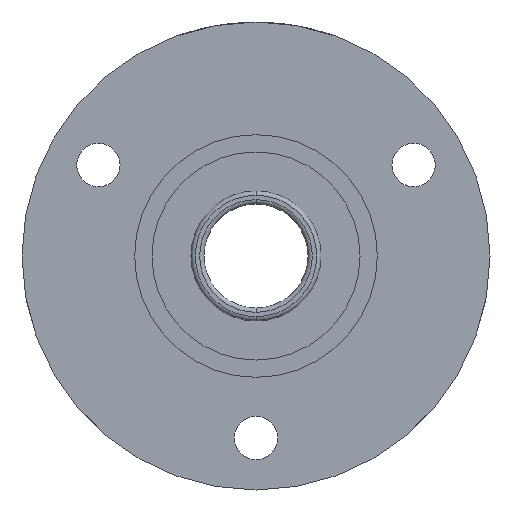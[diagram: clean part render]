
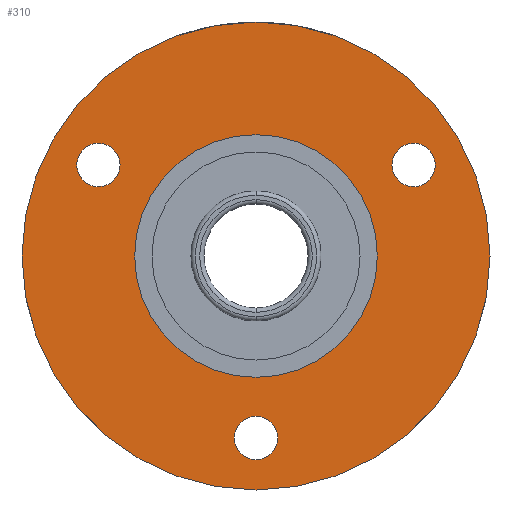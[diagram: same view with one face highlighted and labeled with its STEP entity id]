
A CAD part, front view. The second image highlights one B-rep face of the part: STEP entity #310.
In plain terms, the highlighted planar face has unit normal (0, -1, 0).
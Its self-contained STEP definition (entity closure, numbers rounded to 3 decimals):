
#242 = EDGE_CURVE ( 'NONE', #8785, #4486, #6727, .T. ) ;
#310 = ADVANCED_FACE ( 'NONE', ( #2853, #9030, #9924, #2970, #9760 ), #9812, .F. ) ;
#442 = CARTESIAN_POINT ( 'NONE',  ( 0., -1.5, 0. ) ) ;
#617 = DIRECTION ( 'NONE',  ( 0., 1., 0. ) ) ;
#733 = EDGE_CURVE ( 'NONE', #3420, #9130, #6818, .T. ) ;
#938 = DIRECTION ( 'NONE',  ( 0., 1., 0. ) ) ;
#975 = AXIS2_PLACEMENT_3D ( 'NONE', #1184, #9706, #10820 ) ;
#1105 = AXIS2_PLACEMENT_3D ( 'NONE', #442, #8089, #7302 ) ;
#1176 = DIRECTION ( 'NONE',  ( 0., 0., 1. ) ) ;
#1179 = EDGE_CURVE ( 'NONE', #9130, #3420, #2641, .T. ) ;
#1184 = CARTESIAN_POINT ( 'NONE',  ( 0., -1.5, 0. ) ) ;
#1227 = CARTESIAN_POINT ( 'NONE',  ( 0., -1.5, -21. ) ) ;
#1248 = EDGE_LOOP ( 'NONE', ( #10624, #6770 ) ) ;
#1449 = CIRCLE ( 'NONE', #2878, 7.5 ) ;
#1476 = CARTESIAN_POINT ( 'NONE',  ( 18.187, -1.5, 10.5 ) ) ;
#1521 = DIRECTION ( 'NONE',  ( 0., 0., 1. ) ) ;
#1757 = CARTESIAN_POINT ( 'NONE',  ( 0., -1.5, -27. ) ) ;
#1835 = EDGE_LOOP ( 'NONE', ( #7843, #6808 ) ) ;
#1868 = AXIS2_PLACEMENT_3D ( 'NONE', #1227, #10754, #2223 ) ;
#2223 = DIRECTION ( 'NONE',  ( 0., 0., 1. ) ) ;
#2533 = ORIENTED_EDGE ( 'NONE', *, *, #9131, .F. ) ;
#2641 = CIRCLE ( 'NONE', #4071, 2.5 ) ;
#2791 = DIRECTION ( 'NONE',  ( 0., 0., 1. ) ) ;
#2853 = FACE_BOUND ( 'NONE', #3094, .T. ) ;
#2878 = AXIS2_PLACEMENT_3D ( 'NONE', #9389, #6032, #11065 ) ;
#2970 = FACE_BOUND ( 'NONE', #1835, .T. ) ;
#2972 = VERTEX_POINT ( 'NONE', #10881 ) ;
#3094 = EDGE_LOOP ( 'NONE', ( #5353, #7670 ) ) ;
#3202 = AXIS2_PLACEMENT_3D ( 'NONE', #8887, #9489, #10502 ) ;
#3350 = CARTESIAN_POINT ( 'NONE',  ( -18.187, -1.5, 8. ) ) ;
#3420 = VERTEX_POINT ( 'NONE', #9084 ) ;
#3519 = CARTESIAN_POINT ( 'NONE',  ( -18.187, -1.5, 10.5 ) ) ;
#3669 = AXIS2_PLACEMENT_3D ( 'NONE', #3519, #6958, #2791 ) ;
#3932 = AXIS2_PLACEMENT_3D ( 'NONE', #1476, #9007, #9790 ) ;
#4071 = AXIS2_PLACEMENT_3D ( 'NONE', #8311, #617, #1521 ) ;
#4116 = EDGE_CURVE ( 'NONE', #5311, #5239, #8980, .T. ) ;
#4486 = VERTEX_POINT ( 'NONE', #6711 ) ;
#4968 = DIRECTION ( 'NONE',  ( 0., 0., 1. ) ) ;
#5064 = EDGE_CURVE ( 'NONE', #4486, #8785, #1449, .T. ) ;
#5161 = EDGE_LOOP ( 'NONE', ( #7049, #9948 ) ) ;
#5239 = VERTEX_POINT ( 'NONE', #8063 ) ;
#5311 = VERTEX_POINT ( 'NONE', #10400 ) ;
#5353 = ORIENTED_EDGE ( 'NONE', *, *, #242, .T. ) ;
#5455 = DIRECTION ( 'NONE',  ( 0., 0., 1. ) ) ;
#5567 = AXIS2_PLACEMENT_3D ( 'NONE', #6042, #938, #4968 ) ;
#5763 = ORIENTED_EDGE ( 'NONE', *, *, #5839, .F. ) ;
#5839 = EDGE_CURVE ( 'NONE', #11045, #6521, #10365, .T. ) ;
#5896 = EDGE_CURVE ( 'NONE', #2972, #7656, #7343, .T. ) ;
#6032 = DIRECTION ( 'NONE',  ( 0., 1., 0. ) ) ;
#6042 = CARTESIAN_POINT ( 'NONE',  ( 0., -1.5, -21. ) ) ;
#6191 = CARTESIAN_POINT ( 'NONE',  ( 0., -1.5, 0. ) ) ;
#6280 = CARTESIAN_POINT ( 'NONE',  ( 0., -1.5, 27. ) ) ;
#6521 = VERTEX_POINT ( 'NONE', #1757 ) ;
#6711 = CARTESIAN_POINT ( 'NONE',  ( 0., -1.5, -7.5 ) ) ;
#6727 = CIRCLE ( 'NONE', #10118, 7.5 ) ;
#6743 = EDGE_CURVE ( 'NONE', #5239, #5311, #7985, .T. ) ;
#6770 = ORIENTED_EDGE ( 'NONE', *, *, #733, .T. ) ;
#6808 = ORIENTED_EDGE ( 'NONE', *, *, #5896, .T. ) ;
#6818 = CIRCLE ( 'NONE', #3932, 2.5 ) ;
#6958 = DIRECTION ( 'NONE',  ( 0., 1., 0. ) ) ;
#7049 = ORIENTED_EDGE ( 'NONE', *, *, #6743, .T. ) ;
#7147 = DIRECTION ( 'NONE',  ( 0., 1., 0. ) ) ;
#7302 = DIRECTION ( 'NONE',  ( 0., 0., 1. ) ) ;
#7343 = CIRCLE ( 'NONE', #3202, 2.5 ) ;
#7656 = VERTEX_POINT ( 'NONE', #3350 ) ;
#7670 = ORIENTED_EDGE ( 'NONE', *, *, #5064, .T. ) ;
#7843 = ORIENTED_EDGE ( 'NONE', *, *, #10154, .T. ) ;
#7978 = CARTESIAN_POINT ( 'NONE',  ( 0., -1.5, 0. ) ) ;
#7985 = CIRCLE ( 'NONE', #1868, 2.5 ) ;
#8063 = CARTESIAN_POINT ( 'NONE',  ( 0., -1.5, -23.5 ) ) ;
#8089 = DIRECTION ( 'NONE',  ( 0., 1., 0. ) ) ;
#8311 = CARTESIAN_POINT ( 'NONE',  ( 18.187, -1.5, 10.5 ) ) ;
#8515 = CIRCLE ( 'NONE', #3669, 2.5 ) ;
#8785 = VERTEX_POINT ( 'NONE', #9670 ) ;
#8887 = CARTESIAN_POINT ( 'NONE',  ( -18.187, -1.5, 10.5 ) ) ;
#8980 = CIRCLE ( 'NONE', #5567, 2.5 ) ;
#9007 = DIRECTION ( 'NONE',  ( 0., 1., 0. ) ) ;
#9030 = FACE_OUTER_BOUND ( 'NONE', #9100, .T. ) ;
#9084 = CARTESIAN_POINT ( 'NONE',  ( 18.187, -1.5, 13. ) ) ;
#9100 = EDGE_LOOP ( 'NONE', ( #2533, #5763 ) ) ;
#9130 = VERTEX_POINT ( 'NONE', #10545 ) ;
#9131 = EDGE_CURVE ( 'NONE', #6521, #11045, #9384, .T. ) ;
#9290 = AXIS2_PLACEMENT_3D ( 'NONE', #6191, #7147, #5455 ) ;
#9384 = CIRCLE ( 'NONE', #975, 27. ) ;
#9389 = CARTESIAN_POINT ( 'NONE',  ( 0., -1.5, 0. ) ) ;
#9489 = DIRECTION ( 'NONE',  ( 0., 1., 0. ) ) ;
#9670 = CARTESIAN_POINT ( 'NONE',  ( 0., -1.5, 7.5 ) ) ;
#9706 = DIRECTION ( 'NONE',  ( 0., 1., 0. ) ) ;
#9760 = FACE_BOUND ( 'NONE', #1248, .T. ) ;
#9790 = DIRECTION ( 'NONE',  ( 0., 0., 1. ) ) ;
#9812 = PLANE ( 'NONE',  #1105 ) ;
#9924 = FACE_BOUND ( 'NONE', #5161, .T. ) ;
#9948 = ORIENTED_EDGE ( 'NONE', *, *, #4116, .T. ) ;
#10118 = AXIS2_PLACEMENT_3D ( 'NONE', #7978, #10759, #1176 ) ;
#10154 = EDGE_CURVE ( 'NONE', #7656, #2972, #8515, .T. ) ;
#10365 = CIRCLE ( 'NONE', #9290, 27. ) ;
#10400 = CARTESIAN_POINT ( 'NONE',  ( 0., -1.5, -18.5 ) ) ;
#10502 = DIRECTION ( 'NONE',  ( 0., 0., 1. ) ) ;
#10545 = CARTESIAN_POINT ( 'NONE',  ( 18.187, -1.5, 8. ) ) ;
#10624 = ORIENTED_EDGE ( 'NONE', *, *, #1179, .T. ) ;
#10754 = DIRECTION ( 'NONE',  ( 0., 1., 0. ) ) ;
#10759 = DIRECTION ( 'NONE',  ( 0., 1., 0. ) ) ;
#10820 = DIRECTION ( 'NONE',  ( 0., 0., 1. ) ) ;
#10881 = CARTESIAN_POINT ( 'NONE',  ( -18.187, -1.5, 13. ) ) ;
#11045 = VERTEX_POINT ( 'NONE', #6280 ) ;
#11065 = DIRECTION ( 'NONE',  ( 0., 0., 1. ) ) ;
